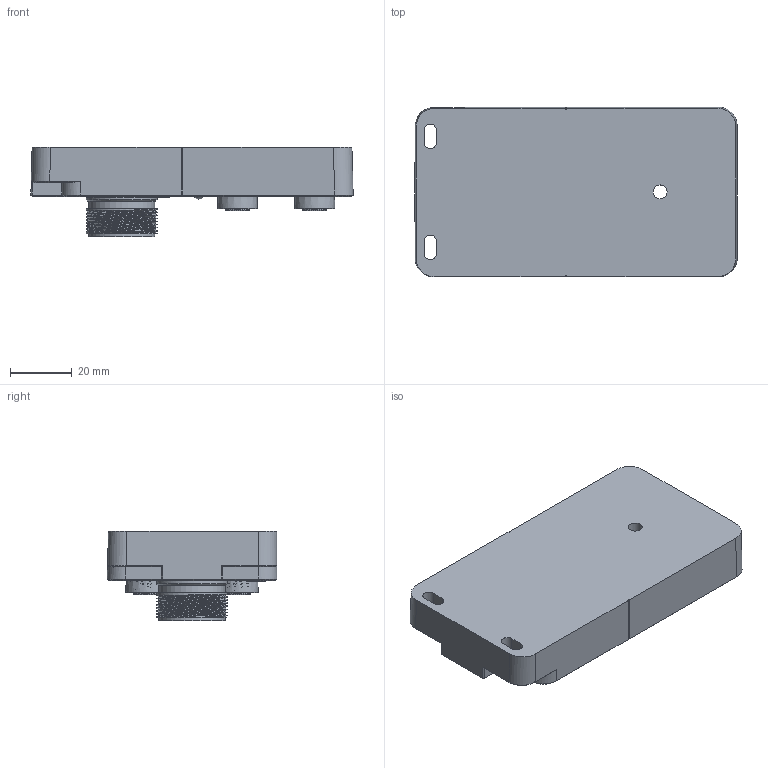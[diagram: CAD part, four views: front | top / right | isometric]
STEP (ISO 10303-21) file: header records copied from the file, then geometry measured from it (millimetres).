
FILE_DESCRIPTION(/* description */ (''),/* implementation_level */ '2;1');
FILE_NAME(/* name */ 'D4M12-5T-M23.stp',/* time_stamp */ '2018-04-18T14:48:09+08:00',/* author */ (''),/* organization */ (''),/* preprocessor_version */ 'ST-DEVELOPER v16',/* originating_system */ 'SIEMENS PLM Software NX 10.0',/* authorisation */ '');
FILE_SCHEMA (('AP203_CONFIGURATION_CONTROLLED_3D_DESIGN_OF_MECHANICAL_PARTS_AND_ASSEMBLIES_MIM_LF { 1 0 10303 403 2 1 2}'));
Length unit declared in the file: millimetre
Products named in the file (1): 9147259C92A3cz5h
Bounding box: 104.48 x 54.99 x 29 mm (x, y, z)
Volume: 91347.6 mm3; surface area: 51824.5 mm2
Topology: 7 solids, 88 shells, 1478 faces, 3860 edges, 2582 vertices
Faces by surface type: plane 755, cylinder 479, cone 150, torus 33, sphere 28, extrusion 23, bspline 10
Full cylindrical faces by diameter (mm): 1 x74, 1.1 x34, 1.2 x20, 1.5 x3, 1.6 x3, 1.9 x48, 2 x88, 2.1 x40, 2.4 x9, 2.5 x9, 4.5 x1, 4.8 x1, 6.9 x1, 10 x1, 13 x4, 19.8 x1, 21 x1, 21.5 x2, 23 x1, 28 x1
Entity records: 49582 total; most frequent: CARTESIAN_POINT 16151, DIRECTION 6912, ORIENTED_EDGE 6026, EDGE_CURVE 3013, AXIS2_PLACEMENT_3D 2662, EDGE_LOOP 2337, VERTEX_POINT 2254, VECTOR 1588
